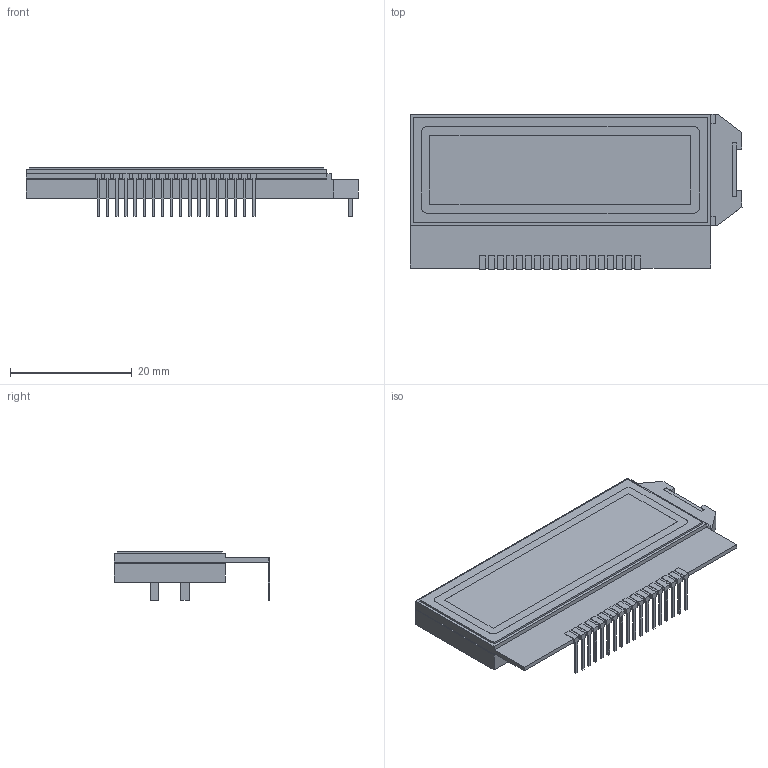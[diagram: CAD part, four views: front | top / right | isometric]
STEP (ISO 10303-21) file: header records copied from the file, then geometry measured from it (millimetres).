
FILE_DESCRIPTION (( 'STEP AP203' ), '1' );
FILE_NAME ('NHD-C0216BA-FSW-GBW_Rev1A.STEP', '2025-08-04T17:41:03', ( '' ), ( '' ), 'SwSTEP 2.0', 'SolidWorks 2019', '' );
FILE_SCHEMA (( 'CONFIG_CONTROL_DESIGN' ));
Length unit declared in the file: millimetre
Products named in the file (1): NHD-C0216BA-FSW-GBW_Rev1A
Bounding box: 54.55 x 25.6 x 8 mm (x, y, z)
Volume: 4868.7 mm3; surface area: 7123.7 mm2
Topology: 3 solids, 3 shells, 286 faces, 834 edges, 554 vertices
Faces by surface type: plane 282, cylinder 4
Entity records: 9335 total; most frequent: CARTESIAN_POINT 1675, ORIENTED_EDGE 1668, DIRECTION 1416, EDGE_CURVE 834, VECTOR 826, LINE 826, VERTEX_POINT 554, AXIS2_PLACEMENT_3D 295
